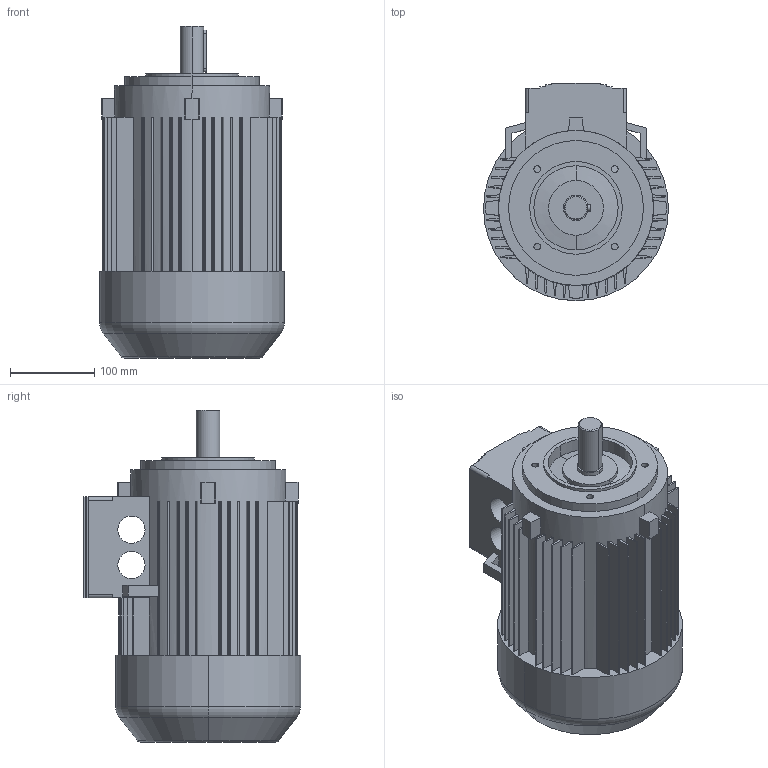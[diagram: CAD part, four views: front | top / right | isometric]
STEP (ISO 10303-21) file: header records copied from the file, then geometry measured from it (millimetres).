
FILE_DESCRIPTION((''),'2;1');
FILE_NAME('1LA7113-2AA12_PRT','2002-04-12T',('martin könig'),(''),'PRO/ENGINEER BY PARAMETRIC TECHNOLOGY CORPORATION, 2002030','PRO/ENGINEER BY PARAMETRIC TECHNOLOGY CORPORATION, 2002030','');
FILE_SCHEMA(('CONFIG_CONTROL_DESIGN'));
Length unit declared in the file: millimetre
Products named in the file (1): 1LA7113-2AA12_PRT
Bounding box: 219.5 x 257.75 x 394 mm (x, y, z)
Volume: 10580111.7 mm3; surface area: 526759.4 mm2
Topology: 1 solids, 1 shells, 270 faces, 753 edges, 498 vertices
Faces by surface type: plane 169, cylinder 87, cone 10, torus 4
Entity records: 8856 total; most frequent: CARTESIAN_POINT 1632, DIRECTION 1533, ORIENTED_EDGE 1506, EDGE_CURVE 753, AXIS2_PLACEMENT_3D 520, VERTEX_POINT 498, VECTOR 493, LINE 493
